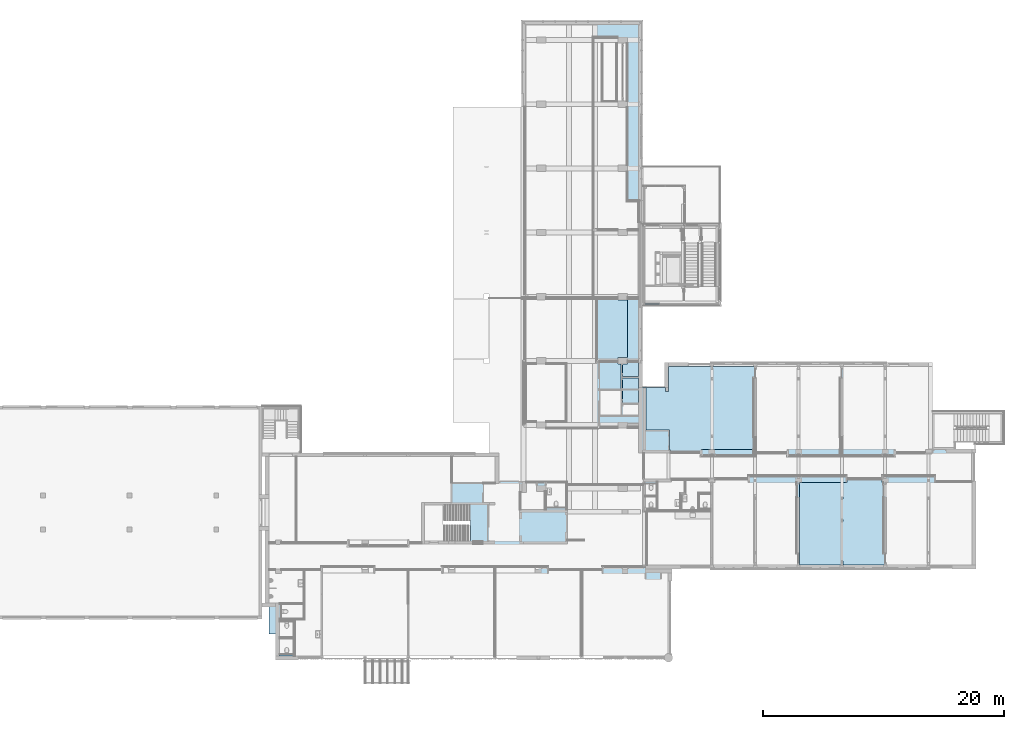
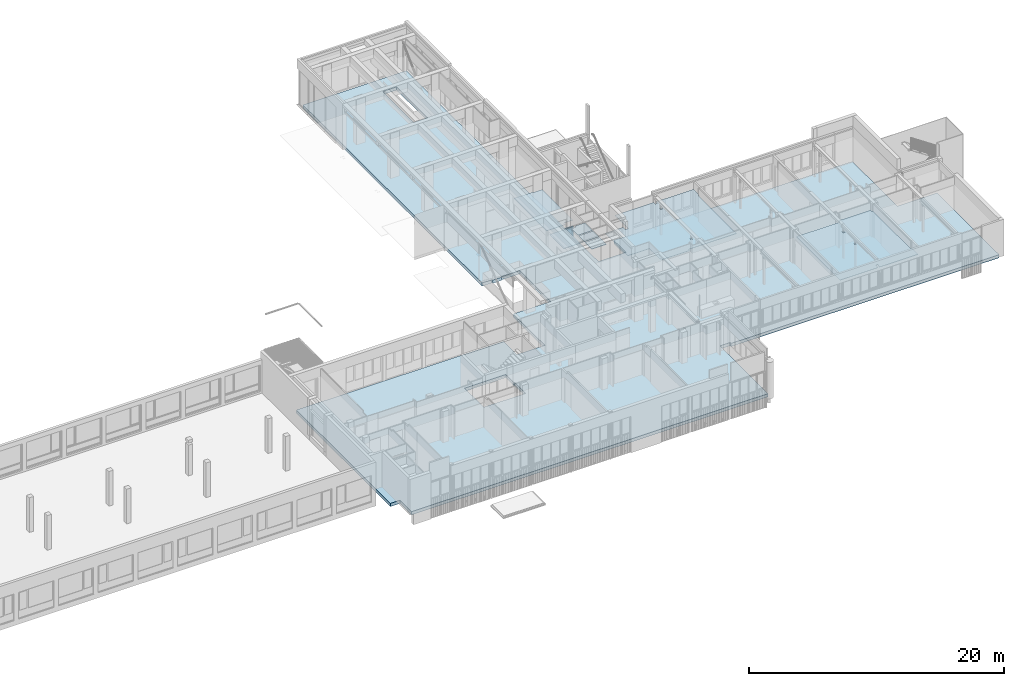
# One storey, part 33 of 117: 8 slabs, 1 plate, 1 opening, 1 element without a shape of its own.
"""IFC2X3 building model written with IfcOpenShell, lengths in millimetres."""

from ifc_helpers import new_model, entity, si_unit, converted_unit, derived_unit, money_unit, direction, frame, origin_with_axes, place, context, subcontext, project, spatial, faceted_brep, material, type_object, element, aggregate, save


model = new_model("IFC2X3")

# Units and contexts
model_context = context("Model", 3, precision=0.01, world=origin_with_axes(), true_north=direction((0.0, 1.0)))
body_context = subcontext(model_context, "Body", "Model", "MODEL_VIEW")
ifc_project = project(units=[si_unit("LENGTHUNIT", "METRE", prefix="MILLI"), si_unit("AREAUNIT", "SQUARE_METRE"), si_unit("VOLUMEUNIT", "CUBIC_METRE"), converted_unit("PLANEANGLEUNIT", "DEGREE", entity("IfcPlaneAngleMeasure", 0.0174532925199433), si_unit("PLANEANGLEUNIT", "RADIAN"), dimensions=[0, 0, 0, 0, 0, 0, 0]), money_unit("EUR"), converted_unit("TIMEUNIT", "Year", entity("IfcTimeMeasure", 31557600.0), si_unit("TIMEUNIT", "SECOND"), dimensions=[0, 0, 1, 0, 0, 0, 0]), si_unit("MASSUNIT", "GRAM", prefix="KILO"), si_unit("THERMODYNAMICTEMPERATUREUNIT", "DEGREE_CELSIUS"), si_unit("LUMINOUSINTENSITYUNIT", "LUMEN"), si_unit("ENERGYUNIT", "JOULE", prefix="MEGA"), derived_unit("THERMALCONDUCTANCEUNIT", [(si_unit("POWERUNIT", "WATT"), 1), (si_unit("LENGTHUNIT", "METRE"), -1), (si_unit("THERMODYNAMICTEMPERATUREUNIT", "KELVIN"), -1)]), derived_unit("SPECIFICHEATCAPACITYUNIT", [(si_unit("ENERGYUNIT", "JOULE"), 1), (si_unit("MASSUNIT", "GRAM", prefix="KILO"), -1), (si_unit("THERMODYNAMICTEMPERATUREUNIT", "KELVIN"), -1)]), derived_unit("MASSDENSITYUNIT", [(si_unit("MASSUNIT", "GRAM", prefix="KILO"), 1), (si_unit("VOLUMEUNIT", "CUBIC_METRE"), -1)])], contexts=[model_context])

# Site, building, storey
site_placement = place(None, origin_with_axes())
site = spatial("IfcSite", under=ifc_project, at=site_placement, Name="Site", CompositionType="ELEMENT")
building_placement = place(site_placement, origin_with_axes())
building = spatial("IfcBuilding", under=site, at=building_placement, Name="Naam gebouw", CompositionType="ELEMENT")
storey_placement = place(building_placement, frame((0.0, 0.0, 4150.0), z_axis=(0.0, 0.0, 1.0), x_axis=(1.0, 0.0, 0.0)))
storey = spatial("IfcBuildingStorey", under=building, at=storey_placement, Name="1e verdieping N", CompositionType="ELEMENT", Elevation=4150.0)

# Slabs
ifc_material_1 = material(Name="ALG - BINNENAFWERKING")
slab_type_1 = type_object("IfcSlabType", Name="ALG - BINNENAFWERKING 40", PredefinedType="NOTDEFINED")
slab_1_placement = place(storey_placement, frame((43274.99994546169, 10990.91242510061, 2450.0), z_axis=(0.0, 0.0, 1.0), x_axis=(1.0, 0.0, 0.0)))
element("IfcSlab", 1, at=slab_1_placement, inside=storey, type_object=slab_type_1, material=ifc_material_1, Name="_Vloer-x", PredefinedType="NOTDEFINED", context=body_context, shape_type="Brep", body=[
    faceted_brep([(3465.000054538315, 5510.00000000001, 40.00000000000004), (3585.000054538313, 5509.999999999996, 40.00000000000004), (3585.000054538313, 5630.000000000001, 40.00000000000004), (3465.000054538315, 5630.000000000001, 40.00000000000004), (3465.000054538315, 5510.00000000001, 0.0), (3585.000054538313, 5509.999999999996, 0.0), (3585.000054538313, 5630.000000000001, 0.0), (3465.000054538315, 5630.000000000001, 0.0)], [[[0, 1, 2, 3]], [[4, 5, 1, 0]], [[5, 6, 2, 1]], [[3, 2, 6, 7]], [[7, 4, 0, 3]], [[7, 6, 5, 4]]]),
    faceted_brep([(3465.000054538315, 3648.929620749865, 40.00000000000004), (3585.000054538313, 3648.929620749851, 40.00000000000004), (3585.000054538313, 3768.929620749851, 40.00000000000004), (3465.000054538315, 3768.929620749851, 40.00000000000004), (3465.000054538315, 3648.929620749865, 0.0), (3585.000054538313, 3648.929620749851, 0.0), (3585.000054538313, 3768.929620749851, 0.0), (3465.000054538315, 3768.929620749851, 0.0)], [[[0, 1, 2, 3]], [[4, 5, 1, 0]], [[5, 6, 2, 1]], [[3, 2, 6, 7]], [[7, 4, 0, 3]], [[7, 6, 5, 4]]]),
    faceted_brep([(3610.000054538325, 3793.929620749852, 0.0), (3610.000054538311, 3768.929620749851, 0.0), (3610.000054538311, 3768.929620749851, 40.00000000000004), (3610.000054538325, 3793.929620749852, 40.00000000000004), (3600.000066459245, 210.0000000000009, 0.0), (3610.000054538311, 210.0000000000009, 0.0), (3610.000054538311, 339.9999999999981, 0.0), (3610.000054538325, 364.9999999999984, 0.0), (3600.000066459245, 364.9999999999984, 0.0), (3450.000046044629, 364.9999999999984, 0.0), (3440.000054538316, 364.9999999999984, 0.0), (3440.000054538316, 210.0000000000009, 0.0), (3450.000046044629, 210.0000000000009, 0.0), (3450.000046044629, 0.0, 0.0), (0.0, 0.0, 0.0), (0.0, 6879.999969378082, 0.0), (3945.000092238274, 6879.999969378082, 0.0), (3945.000092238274, 7104.999999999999, 0.0), (6855.000107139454, 7104.999999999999, 0.0), (6855.000107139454, 6879.999969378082, 0.0), (6950.000028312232, 6879.999969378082, 0.0), (6950.000028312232, 940.0000502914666, 0.0), (7050.000006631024, 940.0000502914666, 0.0), (7050.000006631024, 0.0, 0.0), (3600.000066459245, 0.0, 0.0), (3610.000054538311, 5485.000000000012, 0.0), (3610.000054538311, 5509.999999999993, 0.0), (3610.000054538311, 5630.000000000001, 0.0), (3610.000054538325, 5654.999999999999, 0.0), (3465.000054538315, 5654.999999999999, 0.0), (3440.000054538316, 5654.999999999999, 0.0), (3440.000054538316, 5485.000000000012, 0.0), (3465.000054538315, 5485.000000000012, 0.0), (3610.000054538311, 3623.929620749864, 0.0), (3610.000054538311, 3648.929620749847, 0.0), (3465.000054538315, 3793.929620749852, 0.0), (3440.000054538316, 3793.929620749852, 0.0), (3440.000054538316, 3623.929620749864, 0.0), (3465.000054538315, 3623.929620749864, 0.0), (3610.000054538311, 3648.929620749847, 40.00000000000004), (3610.000054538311, 339.9999999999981, 40.00000000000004), (3610.000054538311, 210.0000000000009, 40.00000000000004), (3600.000066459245, 210.0000000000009, 40.00000000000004), (3600.000066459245, 0.0, 40.00000000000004), (7050.000006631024, 0.0, 40.00000000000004), (7050.000006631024, 940.0000502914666, 40.00000000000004), (6950.000028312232, 940.0000502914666, 40.00000000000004), (6950.000028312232, 6879.999969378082, 40.00000000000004), (6855.000107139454, 6879.999969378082, 40.00000000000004), (6855.000107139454, 7104.999999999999, 40.00000000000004), (3945.000092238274, 7104.999999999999, 40.00000000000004), (3945.000092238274, 6879.999969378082, 40.00000000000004), (0.0, 6879.999969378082, 40.00000000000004), (0.0, 0.0, 40.00000000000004), (3450.000046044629, 0.0, 40.00000000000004), (3450.000046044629, 210.0000000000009, 40.00000000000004), (3440.000054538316, 210.0000000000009, 40.00000000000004), (3440.000054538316, 364.9999999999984, 40.00000000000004), (3450.000046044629, 364.9999999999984, 40.00000000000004), (3600.000066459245, 364.9999999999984, 40.00000000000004), (3610.000054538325, 364.9999999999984, 40.00000000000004), (3610.000054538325, 5654.999999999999, 40.00000000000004), (3610.000054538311, 5630.000000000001, 40.00000000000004), (3610.000054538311, 5509.999999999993, 40.00000000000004), (3610.000054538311, 5485.000000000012, 40.00000000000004), (3465.000054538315, 5485.000000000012, 40.00000000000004), (3440.000054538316, 5485.000000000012, 40.00000000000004), (3440.000054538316, 5654.999999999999, 40.00000000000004), (3465.000054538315, 5654.999999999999, 40.00000000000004), (3610.000054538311, 3623.929620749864, 40.00000000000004), (3465.000054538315, 3623.929620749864, 40.00000000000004), (3440.000054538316, 3623.929620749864, 40.00000000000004), (3440.000054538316, 3793.929620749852, 40.00000000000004), (3465.000054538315, 3793.929620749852, 40.00000000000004)], [[[0, 1, 2, 3]], [[4, 5, 6, 7, 8, 9, 10, 11, 12, 13, 14, 15, 16, 17, 18, 19, 20, 21, 22, 23, 24], [25, 26, 27, 28, 29, 30, 31, 32], [33, 34, 1, 0, 35, 36, 37, 38]], [[34, 39, 2, 1]], [[40, 41, 42, 43, 44, 45, 46, 47, 48, 49, 50, 51, 52, 53, 54, 55, 56, 57, 58, 59, 60], [61, 62, 63, 64, 65, 66, 67, 68], [3, 2, 39, 69, 70, 71, 72, 73]], [[0, 3, 73, 35]], [[4, 42, 41, 5]], [[5, 41, 40, 6]], [[7, 6, 40, 60]], [[7, 60, 59, 8]], [[9, 8, 59, 58]], [[10, 9, 58, 57]], [[10, 57, 56, 11]], [[11, 56, 55, 12]], [[13, 12, 55, 54]], [[54, 53, 14, 13]], [[53, 52, 15, 14]], [[52, 51, 16, 15]], [[51, 50, 17, 16]], [[50, 49, 18, 17]], [[49, 48, 19, 18]], [[48, 47, 20, 19]], [[47, 46, 21, 20]], [[46, 45, 22, 21]], [[45, 44, 23, 22]], [[44, 43, 24, 23]], [[43, 42, 4, 24]], [[64, 63, 26, 25]], [[26, 63, 62, 27]], [[28, 27, 62, 61]], [[28, 61, 68, 29]], [[30, 29, 68, 67]], [[30, 67, 66, 31]], [[66, 65, 32, 31]], [[32, 65, 64, 25]], [[69, 39, 34, 33]], [[36, 35, 73, 72]], [[36, 72, 71, 37]], [[71, 70, 38, 37]], [[38, 70, 69, 33]]]),
])
slab_2_placement = place(storey_placement, frame((30525.0, 22206.91242510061, 2450.0), z_axis=(0.0, 0.0, 1.0), x_axis=(1.0, 0.0, 0.0)))
element("IfcSlab", 2, at=slab_2_placement, inside=storey, type_object=slab_type_1, material=ifc_material_1, Name="_Vloer-x", PredefinedType="NOTDEFINED", context=body_context, shape_type="Brep", body=[
    faceted_brep([(5414.999999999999, -560.9999999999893, 40.00000000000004), (5534.999999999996, -561.000000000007, 40.00000000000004), (5534.999999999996, -440.999999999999, 40.00000000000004), (5414.999999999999, -440.999999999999, 40.00000000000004), (5414.999999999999, -560.9999999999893, 0.0), (5534.999999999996, -561.000000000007, 0.0), (5534.999999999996, -440.999999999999, 0.0), (5414.999999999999, -440.999999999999, 0.0)], [[[0, 1, 2, 3]], [[4, 5, 1, 0]], [[5, 6, 2, 1]], [[3, 2, 6, 7]], [[7, 4, 0, 3]], [[7, 6, 5, 4]]]),
    faceted_brep([(5414.999999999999, 4213.720352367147, 40.00000000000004), (5534.999999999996, 4213.72035236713, 40.00000000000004), (5534.999999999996, 4333.720352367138, 40.00000000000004), (5414.999999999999, 4333.720352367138, 40.00000000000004), (5414.999999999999, 4213.720352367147, 0.0), (5534.999999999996, 4213.72035236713, 0.0), (5534.999999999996, 4333.720352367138, 0.0), (5414.999999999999, 4333.720352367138, 0.0)], [[[0, 1, 2, 3]], [[4, 5, 1, 0]], [[5, 6, 2, 1]], [[3, 2, 6, 7]], [[7, 4, 0, 3]], [[7, 6, 5, 4]]]),
    faceted_brep([(5560.000000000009, 4358.720352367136, 0.0), (5559.999999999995, 4333.720352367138, 0.0), (5559.999999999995, 4333.720352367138, 40.00000000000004), (5560.000000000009, 4358.720352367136, 40.00000000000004), (1956.117064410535, -1656.000000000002, 0.0), (1956.117064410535, 0.0, 0.0), (0.0, 0.0, 0.0), (0.0, 3553.984600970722, 0.0), (1624.999999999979, 3553.984600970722, 0.0), (1624.999999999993, 3214.000000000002, 0.0), (1874.999999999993, 3214.000000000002, 0.0), (1874.999999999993, 5299.000000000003, 0.0), (5400.000000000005, 5299.000000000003, 0.0), (5400.000000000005, 5044.000000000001, 0.0), (5550.000000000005, 5044.000000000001, 0.0), (5550.000000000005, 5299.000000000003, 0.0), (9000.00000000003, 5299.000000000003, 0.0), (9000.00000000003, 4358.999999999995, 0.0), (8899.999999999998, 4358.999999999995, 0.0), (8899.999999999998, -1626.000000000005, 0.0), (4560.000000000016, -1626.000000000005, 0.0), (4560.000000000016, -1806.000000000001, 0.0), (2056.117064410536, -1806.000000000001, 0.0), (2056.117064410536, -1656.000000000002, 0.0), (5559.999999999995, -585.9999999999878, 0.0), (5559.999999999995, -561.000000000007, 0.0), (5559.999999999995, -440.999999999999, 0.0), (5560.000000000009, -416.0000000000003, 0.0), (5414.999999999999, -416.0000000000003, 0.0), (5390.000000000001, -416.0000000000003, 0.0), (5390.000000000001, -585.9999999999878, 0.0), (5414.999999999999, -585.9999999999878, 0.0), (5559.999999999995, 4188.720352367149, 0.0), (5559.999999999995, 4213.72035236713, 0.0), (5414.999999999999, 4358.720352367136, 0.0), (5390.000000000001, 4358.720352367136, 0.0), (5390.000000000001, 4188.720352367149, 0.0), (5414.999999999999, 4188.720352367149, 0.0), (5559.999999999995, 4213.72035236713, 40.00000000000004), (1624.999999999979, 3553.984600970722, 40.00000000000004), (0.0, 3553.984600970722, 40.00000000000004), (0.0, 0.0, 40.00000000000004), (1956.117064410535, 0.0, 40.00000000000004), (1956.117064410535, -1656.000000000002, 40.00000000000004), (2056.117064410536, -1656.000000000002, 40.00000000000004), (2056.117064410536, -1806.000000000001, 40.00000000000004), (4560.000000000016, -1806.000000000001, 40.00000000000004), (4560.000000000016, -1626.000000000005, 40.00000000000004), (8899.999999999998, -1626.000000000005, 40.00000000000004), (8899.999999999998, 4358.999999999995, 40.00000000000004), (9000.00000000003, 4358.999999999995, 40.00000000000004), (9000.00000000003, 5299.000000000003, 40.00000000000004), (5550.000000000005, 5299.000000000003, 40.00000000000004), (5550.000000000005, 5044.000000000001, 40.00000000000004), (5400.000000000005, 5044.000000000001, 40.00000000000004), (5400.000000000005, 5299.000000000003, 40.00000000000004), (1874.999999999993, 5299.000000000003, 40.00000000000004), (1874.999999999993, 3214.000000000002, 40.00000000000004), (1624.999999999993, 3214.000000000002, 40.00000000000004), (5560.000000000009, -416.0000000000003, 40.00000000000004), (5559.999999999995, -440.999999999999, 40.00000000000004), (5559.999999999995, -561.000000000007, 40.00000000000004), (5559.999999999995, -585.9999999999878, 40.00000000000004), (5414.999999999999, -585.9999999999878, 40.00000000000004), (5390.000000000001, -585.9999999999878, 40.00000000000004), (5390.000000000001, -416.0000000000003, 40.00000000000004), (5414.999999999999, -416.0000000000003, 40.00000000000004), (5559.999999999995, 4188.720352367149, 40.00000000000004), (5414.999999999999, 4188.720352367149, 40.00000000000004), (5390.000000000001, 4188.720352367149, 40.00000000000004), (5390.000000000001, 4358.720352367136, 40.00000000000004), (5414.999999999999, 4358.720352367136, 40.00000000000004)], [[[0, 1, 2, 3]], [[4, 5, 6, 7, 8, 9, 10, 11, 12, 13, 14, 15, 16, 17, 18, 19, 20, 21, 22, 23], [24, 25, 26, 27, 28, 29, 30, 31], [32, 33, 1, 0, 34, 35, 36, 37]], [[33, 38, 2, 1]], [[39, 40, 41, 42, 43, 44, 45, 46, 47, 48, 49, 50, 51, 52, 53, 54, 55, 56, 57, 58], [59, 60, 61, 62, 63, 64, 65, 66], [3, 2, 38, 67, 68, 69, 70, 71]], [[0, 3, 71, 34]], [[43, 42, 5, 4]], [[42, 41, 6, 5]], [[41, 40, 7, 6]], [[40, 39, 8, 7]], [[39, 58, 9, 8]], [[58, 57, 10, 9]], [[57, 56, 11, 10]], [[56, 55, 12, 11]], [[55, 54, 13, 12]], [[54, 53, 14, 13]], [[53, 52, 15, 14]], [[52, 51, 16, 15]], [[51, 50, 17, 16]], [[50, 49, 18, 17]], [[49, 48, 19, 18]], [[48, 47, 20, 19]], [[47, 46, 21, 20]], [[46, 45, 22, 21]], [[45, 44, 23, 22]], [[44, 43, 4, 23]], [[62, 61, 25, 24]], [[25, 61, 60, 26]], [[27, 26, 60, 59]], [[27, 59, 66, 28]], [[29, 28, 66, 65]], [[29, 65, 64, 30]], [[64, 63, 31, 30]], [[31, 63, 62, 24]], [[67, 38, 33, 32]], [[35, 34, 71, 70]], [[35, 70, 69, 36]], [[69, 68, 37, 36]], [[37, 68, 67, 32]]]),
])
slab_3_placement = place(storey_placement, frame((28576.0, 24475.76583405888, 2400.0), z_axis=(0.0, 0.0, 1.0), x_axis=(1.0, 0.0, 0.0)))
element("IfcSlab", 3, at=slab_3_placement, inside=storey, type_object=slab_type_1, material=ifc_material_1, Name="_Vloer-x", PredefinedType="NOTDEFINED", context=body_context, shape_type="Brep", body=[
    faceted_brep([(0.0, 0.0, 39.99999999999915), (0.0, 0.0, 0.0), (1329.999999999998, 0.0, 0.0), (1329.999999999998, 0.0, 39.99999999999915), (0.0, 1049.999988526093, 39.99999999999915), (0.0, 1049.999988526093, 0.0), (1329.999999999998, 1049.999988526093, 0.0), (1329.999999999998, 1049.999988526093, 39.99999999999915)], [[[0, 1, 2, 3]], [[4, 5, 1, 0]], [[2, 1, 5, 6]], [[3, 2, 6, 7]], [[4, 0, 3, 7]], [[7, 6, 5, 4]]]),
])
slab_4_placement = place(storey_placement, frame((28576.0, 25625.76582988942, 2400.0), z_axis=(0.0, 0.0, 1.0), x_axis=(1.0, 0.0, 0.0)))
element("IfcSlab", 4, at=slab_4_placement, inside=storey, type_object=slab_type_1, material=ifc_material_1, Name="_Vloer-x", PredefinedType="NOTDEFINED", context=body_context, shape_type="Brep", body=[
    faceted_brep([(0.0, 0.0, 39.99999999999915), (0.0, 0.0, 0.0), (1329.999999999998, 0.0, 0.0), (1329.999999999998, 0.0, 39.99999999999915), (0.0, 917.6466087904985, 39.99999999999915), (0.0, 917.6466087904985, 0.0), (1329.999999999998, 917.6466087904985, 0.0), (1329.999999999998, 917.6466087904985, 39.99999999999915)], [[[0, 1, 2, 3]], [[4, 5, 1, 0]], [[2, 1, 5, 6]], [[3, 2, 6, 7]], [[4, 0, 3, 7]], [[7, 6, 5, 4]]]),
])
slab_5_placement = place(storey_placement, frame((28576.0, 26643.41242927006, 2400.0), z_axis=(0.0, 0.0, 1.0), x_axis=(1.0, 0.0, 0.0)))
element("IfcSlab", 5, at=slab_5_placement, inside=storey, type_object=slab_type_1, material=ifc_material_1, Name="_Vloer-x", PredefinedType="NOTDEFINED", context=body_context, shape_type="Brep", body=[
    faceted_brep([(0.0, 0.0, 39.99999999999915), (0.0, 0.0, 0.0), (1329.999999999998, 0.0, 0.0), (1329.999999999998, 0.0, 39.99999999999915), (0.0, 1049.99999583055, 39.99999999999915), (0.0, 1049.99999583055, 0.0), (439.9999999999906, 1049.99999583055, 0.0), (439.9999803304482, 1212.499976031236, 0.0), (1329.999999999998, 1212.499976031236, 0.0), (1329.999999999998, 1212.499976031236, 39.99999999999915), (439.9999803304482, 1212.499976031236, 39.99999999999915), (439.9999999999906, 1049.99999583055, 39.99999999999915)], [[[0, 1, 2, 3]], [[4, 5, 1, 0]], [[2, 1, 5, 6, 7, 8]], [[3, 2, 8, 9]], [[4, 0, 3, 9, 10, 11]], [[11, 6, 5, 4]], [[10, 7, 6, 11]], [[9, 8, 7, 10]]]),
])
slab_6_placement = place(storey_placement, frame((26686.0, 27855.91242510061, 2400.0), z_axis=(0.0, 0.0, 1.0), x_axis=(1.0, 0.0, 0.0)))
element("IfcSlab", 6, at=slab_6_placement, inside=storey, type_object=slab_type_1, material=ifc_material_1, Name="_Vloer-x", PredefinedType="NOTDEFINED", context=body_context, shape_type="Brep", body=[
    faceted_brep([(0.0, 0.0, 39.99999999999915), (0.0, 0.0, 0.0), (0.0, -2230.146595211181, 0.0), (0.0, -2230.146595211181, 39.99999999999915), (1510.000010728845, 0.0, 39.99999999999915), (1510.000010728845, 0.0, 0.0), (1510.000010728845, -162.4999999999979, 0.0), (1789.999999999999, -162.4999999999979, 0.0), (1789.999999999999, -2230.146595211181, 0.0), (1789.999999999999, -2230.146595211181, 39.99999999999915), (1789.999999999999, -162.4999999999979, 39.99999999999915), (1510.000010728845, -162.4999999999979, 39.99999999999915)], [[[0, 1, 2, 3]], [[4, 5, 1, 0]], [[2, 1, 5, 6, 7, 8]], [[3, 2, 8, 9]], [[4, 0, 3, 9, 10, 11]], [[11, 6, 5, 4]], [[10, 7, 6, 11]], [[9, 8, 7, 10]]]),
])
slab_7_placement = place(storey_placement, frame((26486.0, 33085.9124251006, 2760.0), z_axis=(0.0, 0.0, 1.0), x_axis=(1.0, 0.0, 0.0)))
element("IfcSlab", 7, at=slab_7_placement, inside=storey, type_object=slab_type_1, material=ifc_material_1, Name="_Vloer-x", PredefinedType="NOTDEFINED", context=body_context, shape_type="Brep", body=[
    faceted_brep([(2530.000036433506, -62.50000490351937, 40.00000000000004), (1709.999999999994, -62.5, 40.00000000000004), (1709.999999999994, 0.0, 40.00000000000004), (0.0, 0.0, 40.00000000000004), (0.0, -5130.052726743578, 40.00000000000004), (100.0000000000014, -5130.049642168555, 40.00000000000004), (100.0000000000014, -5129.999999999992, 40.00000000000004), (1709.999993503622, -5129.999999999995, 40.00000000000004), (1709.999993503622, -4867.500021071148, 40.00000000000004), (2530.000036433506, -4867.500021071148, 40.00000000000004), (2530.000036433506, -62.50000490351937, 0.0), (1709.999999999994, -62.5, 0.0), (1709.999999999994, 0.0, 0.0), (0.0, 0.0, 0.0), (0.0, -5130.052726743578, 0.0), (100.0000000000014, -5130.049642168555, 0.0), (100.0000000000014, -5129.999999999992, 0.0), (1709.999993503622, -5129.999999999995, 0.0), (1709.999993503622, -4867.500021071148, 0.0), (2530.000036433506, -4867.500021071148, 0.0)], [[[0, 1, 2, 3, 4, 5, 6, 7, 8, 9]], [[10, 11, 1, 0]], [[11, 12, 2, 1]], [[3, 2, 12, 13]], [[14, 4, 3, 13]], [[4, 14, 15, 5]], [[15, 16, 6, 5]], [[6, 16, 17, 7]], [[18, 8, 7, 17]], [[19, 9, 8, 18]], [[10, 0, 9, 19]], [[13, 12, 11, 10, 19, 18, 17, 16, 15, 14]]]),
])

# Slab, opening
ifc_material_2 = material(Name="ALG - CONSTRUCTIEF VLOER")
slab_type_2 = type_object("IfcSlabType", Name="ALG - CONSTRUCTIEF VLOER 300", PredefinedType="NOTDEFINED")
slab_8_placement = place(storey_placement, frame((-770.0761052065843, 20015.80220242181, 0.0), z_axis=(0.0, 0.0, 1.0), x_axis=(1.0, 0.0, 0.0)))
slab_8 = element("IfcSlab", 8, at=slab_8_placement, inside=storey, type_object=slab_type_2, material=ifc_material_2, Name="_Vloer-x", PredefinedType="NOTDEFINED", context=body_context, shape_type="Brep", body=[
    faceted_brep([(870.0761531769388, -14754.00608310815, -299.9999999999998), (0.0, -14754.00608310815, -299.9999999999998), (0.0, 0.0, -299.9999999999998), (18720.07600288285, 0.09583871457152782, -299.9999999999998), (18720.07610520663, -19.89095864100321, -299.9999999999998), (18770.07610519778, -19.88977731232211, -299.9999999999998), (18770.07610519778, -2091.050975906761, -299.9999999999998), (21306.07610520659, -2091.050975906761, -299.9999999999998), (21306.0761052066, 2860.110222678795, -299.9999999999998), (24719.11876136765, 2860.110222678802, -299.9999999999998), (24719.11876136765, 7740.110232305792, -299.9999999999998), (23016.07610462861, 7740.110216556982, -299.9999999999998), (23016.07610520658, 7677.610222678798, -299.9999999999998), (22196.07610787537, 7677.610222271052, -299.9999999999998), (22196.07610747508, 7740.110206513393, -299.9999999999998), (21306.0761052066, 7740.110222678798, -299.9999999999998), (21306.07610520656, 35870.11336470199, -299.9999999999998), (30676.07610520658, 35870.11336470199, -299.9999999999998), (30676.07610520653, 7765.110222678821, -299.9999999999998), (30686.60827108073, 5745.094823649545, -299.9999999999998), (33170.07610520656, 5745.094823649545, -299.9999999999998), (33170.07610520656, 7636.110222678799, -299.9999999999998), (54770.07610520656, 7636.110222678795, -299.9999999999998), (54770.07610520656, 575.1102226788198, -299.9999999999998), (58370.07610520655, 575.1102226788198, -299.9999999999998), (58370.07610520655, -9170.889777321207, -299.9999999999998), (34080.42375593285, -9170.889777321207, -299.9999999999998), (34080.42375593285, -9024.889777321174, -299.9999999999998), (33170.07610520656, -9024.889777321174, -299.9999999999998), (33170.07610520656, -16569.88977732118, -299.9999999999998), (22390.07610520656, -16569.88977732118, -299.9999999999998), (22390.07610520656, -16569.90804873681, -299.9999999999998), (870.0761531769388, -16569.90804873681, -299.9999999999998), (16652.47662369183, -5300.881942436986, -299.9999999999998), (16652.47662369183, -4019.881942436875, -299.9999999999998), (12925.57662369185, -4019.881942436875, -299.9999999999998), (12925.57662369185, -7021.194162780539, -299.9999999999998), (16710.57662369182, -7021.194162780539, -299.9999999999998), (16710.57662369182, -5300.881942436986, -299.9999999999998), (27636.07610520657, 34327.61022267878, -299.9999999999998), (27636.07610520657, 29460.11022267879, -299.9999999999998), (28896.07610028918, 29460.11022267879, -299.9999999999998), (28896.07610028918, 34327.61022267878, -299.9999999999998), (870.0761531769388, -14754.00608310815, 0.0), (0.0, -14754.00608310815, 0.0), (0.0, 0.0, 0.0), (18720.07600288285, 0.09583871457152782, 0.0), (18720.07610520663, -19.89095864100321, 0.0), (18770.07610519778, -19.88977731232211, 0.0), (18770.07610519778, -2091.050975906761, 0.0), (21306.07610520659, -2091.050975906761, 0.0), (21306.0761052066, 2860.110222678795, 0.0), (24719.11876136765, 2860.110222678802, 0.0), (24719.11876136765, 7740.110232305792, 0.0), (23016.07610462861, 7740.110216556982, 0.0), (23016.07610520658, 7677.610222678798, 0.0), (22196.07610787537, 7677.610222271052, 0.0), (22196.07610747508, 7740.110206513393, 0.0), (21306.0761052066, 7740.110222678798, 0.0), (21306.07610520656, 35870.11336470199, 0.0), (30676.07610520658, 35870.11336470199, 0.0), (30676.07610520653, 7765.110222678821, 0.0), (30686.60827108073, 5745.094823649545, 0.0), (33170.07610520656, 5745.094823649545, 0.0), (33170.07610520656, 7636.110222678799, 0.0), (54770.07610520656, 7636.110222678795, 0.0), (54770.07610520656, 575.1102226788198, 0.0), (58370.07610520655, 575.1102226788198, 0.0), (58370.07610520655, -9170.889777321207, 0.0), (34080.42375593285, -9170.889777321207, 0.0), (34080.42375593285, -9024.889777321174, 0.0), (33170.07610520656, -9024.889777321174, 0.0), (33170.07610520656, -16569.88977732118, 0.0), (22390.07610520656, -16569.88977732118, 0.0), (22390.07610520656, -16569.90804873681, 0.0), (870.0761531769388, -16569.90804873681, 0.0), (16652.47662369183, -5300.881942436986, 0.0), (16652.47662369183, -4019.881942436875, 0.0), (12925.57662369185, -4019.881942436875, 0.0), (12925.57662369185, -7021.194162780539, 0.0), (16710.57662369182, -7021.194162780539, 0.0), (16710.57662369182, -5300.881942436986, 0.0), (27636.07610520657, 34327.61022267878, 0.0), (27636.07610520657, 29460.11022267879, 0.0), (28896.07610028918, 29460.11022267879, 0.0), (28896.07610028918, 34327.61022267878, 0.0)], [[[0, 1, 2, 3, 4, 5, 6, 7, 8, 9, 10, 11, 12, 13, 14, 15, 16, 17, 18, 19, 20, 21, 22, 23, 24, 25, 26, 27, 28, 29, 30, 31, 32], [33, 34, 35, 36, 37, 38], [39, 40, 41, 42]], [[43, 44, 1, 0]], [[44, 45, 2, 1]], [[45, 46, 3, 2]], [[46, 47, 4, 3]], [[47, 48, 5, 4]], [[48, 49, 6, 5]], [[49, 50, 7, 6]], [[50, 51, 8, 7]], [[51, 52, 9, 8]], [[52, 53, 10, 9]], [[53, 54, 11, 10]], [[54, 55, 12, 11]], [[55, 56, 13, 12]], [[56, 57, 14, 13]], [[57, 58, 15, 14]], [[58, 59, 16, 15]], [[59, 60, 17, 16]], [[60, 61, 18, 17]], [[61, 62, 19, 18]], [[62, 63, 20, 19]], [[63, 64, 21, 20]], [[64, 65, 22, 21]], [[65, 66, 23, 22]], [[66, 67, 24, 23]], [[67, 68, 25, 24]], [[68, 69, 26, 25]], [[69, 70, 27, 26]], [[70, 71, 28, 27]], [[71, 72, 29, 28]], [[72, 73, 30, 29]], [[73, 74, 31, 30]], [[74, 75, 32, 31]], [[75, 43, 0, 32]], [[76, 77, 34, 33]], [[77, 78, 35, 34]], [[78, 79, 36, 35]], [[79, 80, 37, 36]], [[80, 81, 38, 37]], [[81, 76, 33, 38]], [[39, 82, 83, 40]], [[40, 83, 84, 41]], [[41, 84, 85, 42]], [[42, 85, 82, 39]], [[47, 46, 45, 44, 43, 75, 74, 73, 72, 71, 70, 69, 68, 67, 66, 65, 64, 63, 62, 61, 60, 59, 58, 57, 56, 55, 54, 53, 52, 51, 50, 49, 48], [80, 79, 78, 77, 76, 81], [84, 83, 82, 85]]]),
])
opening_placement = place(slab_8_placement, frame((770.0761052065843, -20015.80220242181, -4150.0), z_axis=(0.0, 0.0, 1.0), x_axis=(1.0, 0.0, 0.0)))
element("IfcOpeningElement", 9, at=opening_placement, cuts=slab_8, Name="_Opening-x", context=body_context, shape_type="Brep", body=[
    faceted_brep([(26865.99999999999, 49475.9124251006, 4449.999999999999), (26865.99999999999, 54343.41242510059, 4449.999999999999), (26865.99999999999, 54343.41242510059, 3550.0), (26865.99999999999, 49475.9124251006, 3550.0), (28125.9999950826, 49475.9124251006, 4449.999999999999), (28125.9999950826, 54343.41242510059, 4449.999999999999), (28125.9999950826, 54343.41242510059, 3550.0), (28125.9999950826, 49475.9124251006, 3550.0)], [[[0, 1, 2, 3]], [[0, 4, 5, 1]], [[1, 5, 6, 2]], [[3, 2, 6, 7]], [[4, 0, 3, 7]], [[5, 4, 7, 6]]]),
])

# Curtain wall, plate
curtain_wall_type = type_object("IfcCurtainWallType", Name="Curtain Wall:21_CW_alu kozijn 070x065", PredefinedType="NOTDEFINED")
curtain_wall_placement = place(storey_placement, frame((0.0, 0.0, -4150.0), z_axis=(0.0, 0.0, 1.0), x_axis=(1.0, 0.0, 0.0)))
curtain_wall = element("IfcCurtainWall", 10, at=curtain_wall_placement, inside=storey, type_object=curtain_wall_type, Name="Curtain Wall:21_CW_alu kozijn 070x065", ObjectType="Curtain Wall:21_CW_alu kozijn 070x065")
ifc_material_3 = material(Name="IFC Building Material")
plate_type = type_object("IfcPlateType", Name="30_3B_alu deur met glas:deur RAL 7024", PredefinedType="CURTAIN_PANEL")
plate_placement = place(curtain_wall_placement, frame((31039.73648181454, 32679.41242631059, 450.0000000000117), z_axis=(0.0, 0.0, 1.0), x_axis=(-1.0, 0.0, 0.0)))
plate = element("IfcPlate", 11, at=plate_placement, type_object=plate_type, material=ifc_material_3, Name="30_3B_alu deur met glas:deur RAL 7024", ObjectType="CURTAIN_PANEL", context=body_context, shape_type="Brep", body=[
    faceted_brep([(-475.26351822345, -10.5, 100.0), (475.26351822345, -10.5, 100.0), (475.26351822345, -10.5, 2230.00000000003), (-475.26351822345, -10.5, 2230.00000000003), (-475.26351822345, 10.5, 100.0), (475.26351822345, 10.5, 100.0), (475.26351822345, 10.5, 2230.00000000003), (-475.26351822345, 10.5, 2230.00000000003)], [[[0, 1, 2, 3]], [[0, 4, 5, 1]], [[1, 5, 6, 2]], [[3, 2, 6, 7]], [[4, 0, 3, 7]], [[5, 4, 7, 6]]]),
    faceted_brep([(-575.2635239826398, -30.0, 2330.0), (575.26351822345, -30.0, 2330.0), (575.26351822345, 30.0, 2330.0), (-575.2635239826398, 30.0, 2330.0), (-575.2635239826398, -30.0, 0.0), (575.26351822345, -30.0, 0.0), (475.26351852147, -30.0, 2230.00000029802), (475.26351852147, -30.0, 99.99999970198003), (-475.26352428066, -30.0, 99.99999970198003), (-475.26352428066, -30.0, 2230.00000029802), (575.26351822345, 30.0, 0.0), (-575.2635239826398, 30.0, 0.0), (475.26351852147, 30.0, 2230.00000029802), (-475.26352428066, 30.0, 2230.00000029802), (-475.26352428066, 30.0, 99.99999970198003), (475.26351852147, 30.0, 99.99999970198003)], [[[0, 1, 2, 3]], [[0, 4, 5, 1], [6, 7, 8, 9]], [[1, 5, 10, 2]], [[3, 2, 10, 11], [12, 13, 14, 15]], [[4, 0, 3, 11]], [[5, 4, 11, 10]], [[7, 6, 12, 15]], [[8, 7, 15, 14]], [[9, 8, 14, 13]], [[6, 9, 13, 12]]]),
])
aggregate(curtain_wall, [plate])

save(model, "model.ifc")
